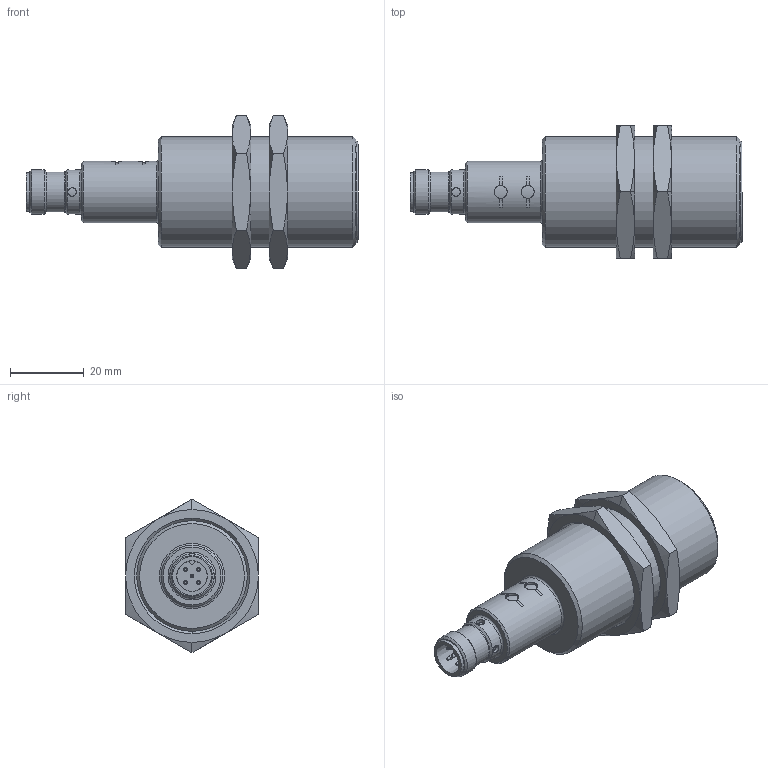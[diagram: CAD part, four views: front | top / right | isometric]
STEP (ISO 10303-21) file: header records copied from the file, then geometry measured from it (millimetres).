
FILE_DESCRIPTION(/* description */ (''),/* implementation_level */ '2;1');
FILE_NAME(/* name */ '3DCAD_BR430B_M12.stp',/* time_stamp */ '2014-12-11T11:14:44+01:00',/* author */ (''),/* organization */ (''),/* preprocessor_version */ 'ST-DEVELOPER v15',/* originating_system */ 'SIEMENS PLM Software NX 8.5',/* authorisation */ '');
FILE_SCHEMA (('AUTOMOTIVE_DESIGN { 1 0 10303 214 3 1 1 1 }'));
Length unit declared in the file: millimetre
Products named in the file (1): 006784_00.0
Bounding box: 90 x 36 x 41.57 mm (x, y, z)
Volume: 47743.9 mm3; surface area: 11966.3 mm2
Topology: 3 solids, 3 shells, 132 faces, 286 edges, 176 vertices
Faces by surface type: cone 53, plane 40, cylinder 35, torus 4
Full cylindrical faces by diameter (mm): 1 x5, 2.3 x4, 3.5 x2, 10.5 x1, 10.8 x1, 12 x2, 16.7 x1, 27.5 x1, 30 x1
Entity records: 4186 total; most frequent: CARTESIAN_POINT 1391, DIRECTION 546, ORIENTED_EDGE 468, AXIS2_PLACEMENT_3D 245, EDGE_CURVE 234, EDGE_LOOP 188, VERTEX_POINT 160, ADVANCED_FACE 132
